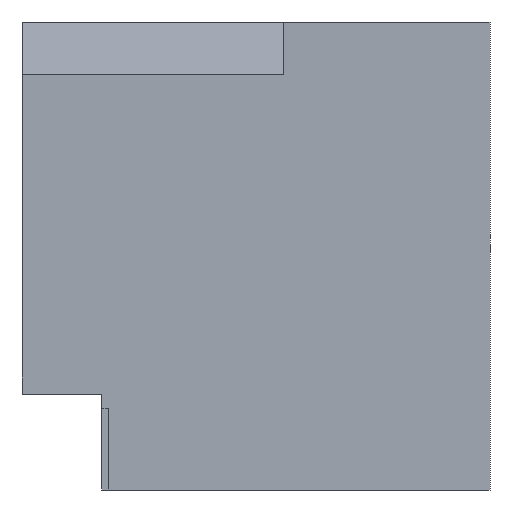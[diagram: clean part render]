
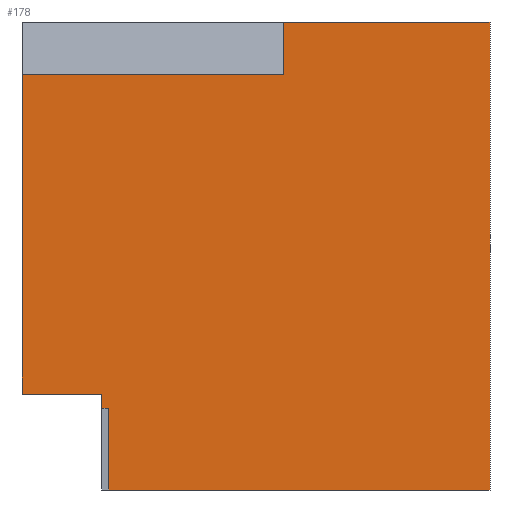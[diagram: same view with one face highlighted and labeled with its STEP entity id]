
A CAD part, front view. The second image highlights one B-rep face of the part: STEP entity #178.
In plain terms, the highlighted planar face has unit normal (0, -1, 0).
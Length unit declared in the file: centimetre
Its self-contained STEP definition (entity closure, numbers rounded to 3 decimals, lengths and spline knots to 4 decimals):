
#23 = VECTOR ( 'NONE', #110, 100. ) ;
#37 = CARTESIAN_POINT ( 'NONE',  ( 0., 0., 1000. ) ) ;
#62 = CARTESIAN_POINT ( 'NONE',  ( 1000., 0., 0. ) ) ;
#75 = VECTOR ( 'NONE', #460, 100. ) ;
#78 = DIRECTION ( 'NONE',  ( 0., 1., 0. ) ) ;
#82 = PLANE ( 'NONE',  #439 ) ;
#90 = CARTESIAN_POINT ( 'NONE',  ( 1000., 0., 1000. ) ) ;
#110 = DIRECTION ( 'NONE',  ( 0., 0., 1. ) ) ;
#116 = ORIENTED_EDGE ( 'NONE', *, *, #389, .F. ) ;
#132 = EDGE_CURVE ( 'NONE', #400, #801, #236, .T. ) ;
#146 = EDGE_CURVE ( 'NONE', #259, #180, #808, .T. ) ;
#149 = CARTESIAN_POINT ( 'NONE',  ( 559.5867, 0., 1000. ) ) ;
#150 = LINE ( 'NONE', #408, #441 ) ;
#155 = CARTESIAN_POINT ( 'NONE',  ( 0., 0., 0. ) ) ;
#170 = LINE ( 'NONE', #1022, #23 ) ;
#178 = ADVANCED_FACE ( 'NONE', ( #824 ), #82, .F. ) ;
#180 = VERTEX_POINT ( 'NONE', #62 ) ;
#192 = VECTOR ( 'NONE', #897, 100. ) ;
#234 = EDGE_CURVE ( 'NONE', #802, #883, #1058, .T. ) ;
#236 = LINE ( 'NONE', #490, #316 ) ;
#244 = CARTESIAN_POINT ( 'NONE',  ( 0., 0., 1000. ) ) ;
#259 = VERTEX_POINT ( 'NONE', #901 ) ;
#260 = VECTOR ( 'NONE', #563, 100. ) ;
#261 = ORIENTED_EDGE ( 'NONE', *, *, #875, .T. ) ;
#267 = EDGE_LOOP ( 'NONE', ( #261, #1028, #116, #732, #960, #950, #593, #574, #775, #1055 ) ) ;
#283 = CARTESIAN_POINT ( 'NONE',  ( 0., 0., 1000. ) ) ;
#292 = EDGE_CURVE ( 'NONE', #305, #425, #931, .T. ) ;
#293 = CARTESIAN_POINT ( 'NONE',  ( 0., 0., 205.1005 ) ) ;
#305 = VERTEX_POINT ( 'NONE', #360 ) ;
#310 = CARTESIAN_POINT ( 'NONE',  ( 184.8885, 0., 174.3154 ) ) ;
#316 = VECTOR ( 'NONE', #817, 100. ) ;
#326 = LINE ( 'NONE', #735, #787 ) ;
#360 = CARTESIAN_POINT ( 'NONE',  ( 169.9386, 0., 205.1005 ) ) ;
#377 = CARTESIAN_POINT ( 'NONE',  ( 169.9386, 0., 174.3154 ) ) ;
#378 = LINE ( 'NONE', #283, #459 ) ;
#387 = DIRECTION ( 'NONE',  ( 1., 0., 0. ) ) ;
#389 = EDGE_CURVE ( 'NONE', #883, #305, #170, .T. ) ;
#395 = EDGE_CURVE ( 'NONE', #1011, #716, #378, .T. ) ;
#400 = VERTEX_POINT ( 'NONE', #473 ) ;
#408 = CARTESIAN_POINT ( 'NONE',  ( 184.8885, 0., 0. ) ) ;
#409 = DIRECTION ( 'NONE',  ( 0., 0., 1. ) ) ;
#425 = VERTEX_POINT ( 'NONE', #293 ) ;
#439 = AXIS2_PLACEMENT_3D ( 'NONE', #244, #78, #409 ) ;
#441 = VECTOR ( 'NONE', #985, 100. ) ;
#459 = VECTOR ( 'NONE', #387, 100. ) ;
#460 = DIRECTION ( 'NONE',  ( 0., 0., -1. ) ) ;
#473 = CARTESIAN_POINT ( 'NONE',  ( 559.5867, 0., 887.2676 ) ) ;
#490 = CARTESIAN_POINT ( 'NONE',  ( 559.5867, 0., 887.2676 ) ) ;
#521 = DIRECTION ( 'NONE',  ( -1., 0., 0. ) ) ;
#559 = DIRECTION ( 'NONE',  ( 0., 0., 1. ) ) ;
#563 = DIRECTION ( 'NONE',  ( -1., 0., 0. ) ) ;
#574 = ORIENTED_EDGE ( 'NONE', *, *, #395, .F. ) ;
#593 = ORIENTED_EDGE ( 'NONE', *, *, #680, .F. ) ;
#611 = EDGE_CURVE ( 'NONE', #259, #802, #150, .T. ) ;
#680 = EDGE_CURVE ( 'NONE', #716, #180, #326, .T. ) ;
#689 = LINE ( 'NONE', #37, #75 ) ;
#716 = VERTEX_POINT ( 'NONE', #90 ) ;
#718 = DIRECTION ( 'NONE',  ( 0., 0., -1. ) ) ;
#722 = LINE ( 'NONE', #1056, #1069 ) ;
#732 = ORIENTED_EDGE ( 'NONE', *, *, #234, .F. ) ;
#735 = CARTESIAN_POINT ( 'NONE',  ( 1000., 0., 1000. ) ) ;
#751 = CARTESIAN_POINT ( 'NONE',  ( 0., 0., 205.1005 ) ) ;
#775 = ORIENTED_EDGE ( 'NONE', *, *, #1002, .F. ) ;
#787 = VECTOR ( 'NONE', #718, 100. ) ;
#801 = VERTEX_POINT ( 'NONE', #1079 ) ;
#802 = VERTEX_POINT ( 'NONE', #917 ) ;
#804 = VECTOR ( 'NONE', #521, 100. ) ;
#808 = LINE ( 'NONE', #155, #192 ) ;
#817 = DIRECTION ( 'NONE',  ( -1., 0., 0. ) ) ;
#824 = FACE_OUTER_BOUND ( 'NONE', #267, .T. ) ;
#875 = EDGE_CURVE ( 'NONE', #801, #425, #689, .T. ) ;
#883 = VERTEX_POINT ( 'NONE', #377 ) ;
#897 = DIRECTION ( 'NONE',  ( 1., 0., 0. ) ) ;
#901 = CARTESIAN_POINT ( 'NONE',  ( 184.8885, 0., 0. ) ) ;
#917 = CARTESIAN_POINT ( 'NONE',  ( 184.8885, 0., 174.3154 ) ) ;
#931 = LINE ( 'NONE', #751, #804 ) ;
#950 = ORIENTED_EDGE ( 'NONE', *, *, #146, .T. ) ;
#960 = ORIENTED_EDGE ( 'NONE', *, *, #611, .F. ) ;
#985 = DIRECTION ( 'NONE',  ( 0., 0., 1. ) ) ;
#1002 = EDGE_CURVE ( 'NONE', #400, #1011, #722, .T. ) ;
#1011 = VERTEX_POINT ( 'NONE', #149 ) ;
#1022 = CARTESIAN_POINT ( 'NONE',  ( 169.9386, 0., 0. ) ) ;
#1028 = ORIENTED_EDGE ( 'NONE', *, *, #292, .F. ) ;
#1055 = ORIENTED_EDGE ( 'NONE', *, *, #132, .T. ) ;
#1056 = CARTESIAN_POINT ( 'NONE',  ( 559.5867, 0., 887.2676 ) ) ;
#1058 = LINE ( 'NONE', #310, #260 ) ;
#1069 = VECTOR ( 'NONE', #559, 100. ) ;
#1079 = CARTESIAN_POINT ( 'NONE',  ( 0., 0., 887.2676 ) ) ;
